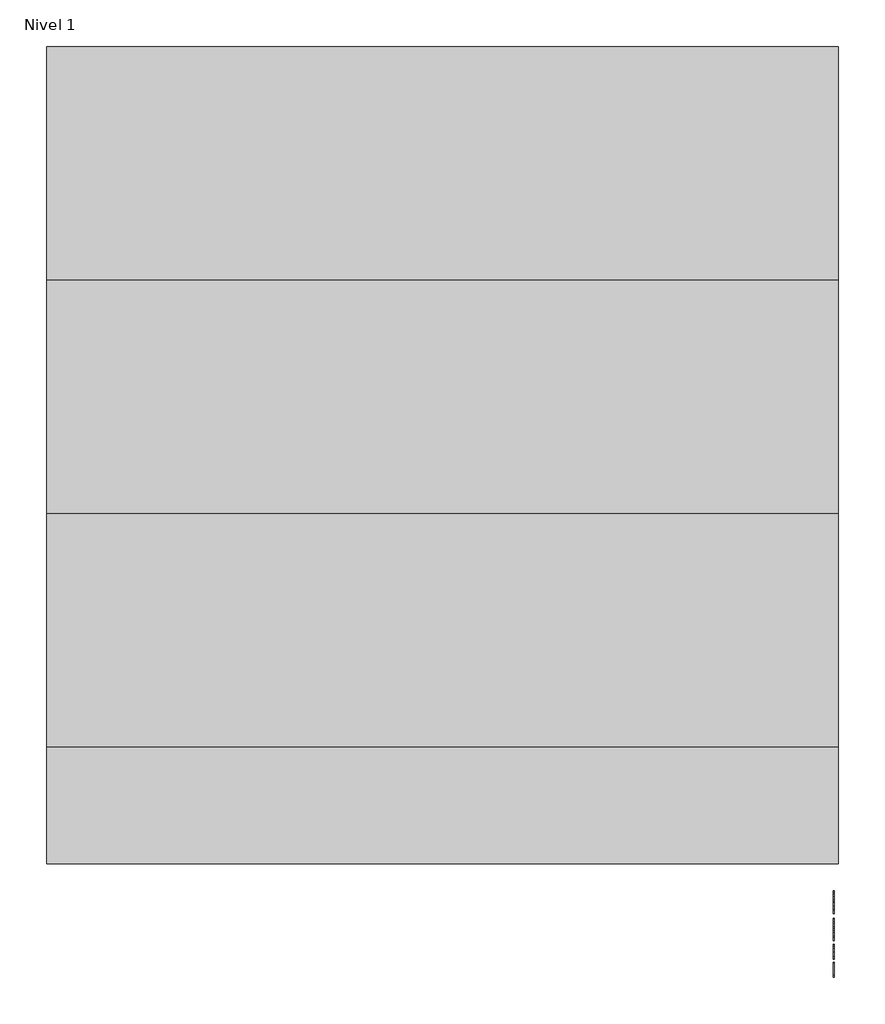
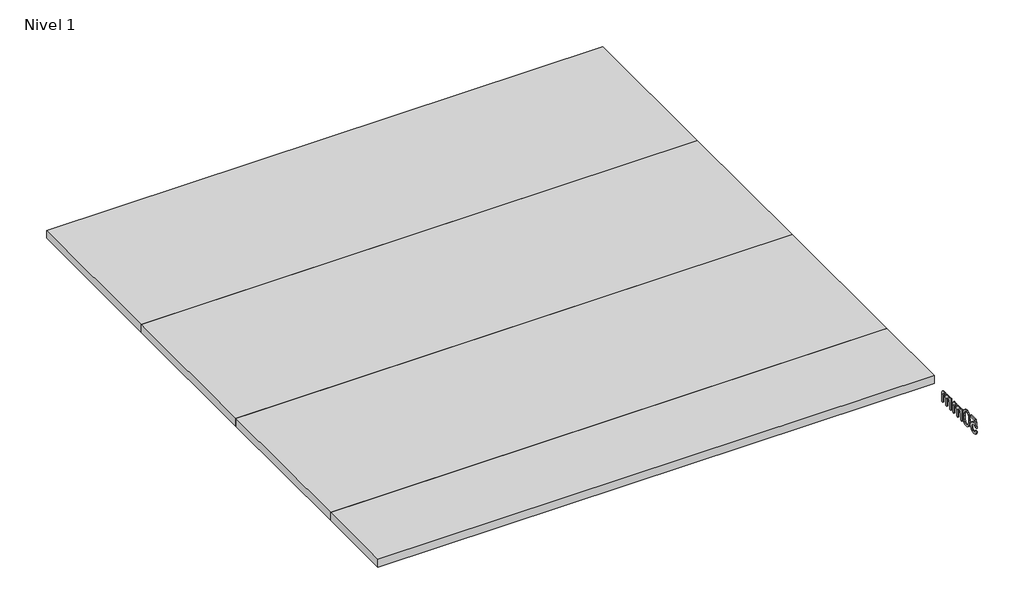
# One storey: 4 plates, 1 proxy.
"""IFC4 building model written with IfcOpenShell, lengths in millimetres."""

import ifcopenshell
import ifcopenshell.guid

model = None  # the IFC model being written
_history = None  # IfcOwnerHistory: only IFC2X3 demands one
_inside = {}  # id of a spatial element -> (the spatial element, [elements in it])
_under = {}  # id of a project, library or spatial element -> (it, [spatial elements below it])
_declared = {}  # id of a project -> (the project, [libraries it declares])
_typed = {}  # id of a type object -> (the type object, [elements of that type])
_made_of = {}  # id of a material, layer set ... -> (it, [elements and type objects made of it])


def new_model(schema):
    """Start an empty IFC model of exactly this schema.

    Asked for "IFC4X3", IfcOpenShell would pick the latest addendum, in which some entities
    have other attributes; the version numbers below select the first issue.
    IFC2X3 requires an IfcOwnerHistory on every rooted entity: one is made here for all.
    """
    global model, _history
    if schema == "IFC4X3":
        model = ifcopenshell.file(schema_version=(4, 3, 0, 0))
    else:
        model = ifcopenshell.file(schema=schema)
    _inside.clear()
    _under.clear()
    _declared.clear()
    _typed.clear()
    _made_of.clear()
    _history = None
    if model.schema == "IFC2X3":
        org = make("IfcOrganization", Name="unknown")
        user = make(
            "IfcPersonAndOrganization",
            ThePerson=make("IfcPerson", FamilyName="unknown"),
            TheOrganization=org,
        )
        app = make(
            "IfcApplication",
            ApplicationDeveloper=org,
            Version="unknown",
            ApplicationFullName="unknown",
            ApplicationIdentifier="unknown",
        )
        _history = make(
            "IfcOwnerHistory",
            OwningUser=user,
            OwningApplication=app,
            ChangeAction="ADDED",
            CreationDate=0,
        )
    return model


def make(cls, **values):
    """One entity of the class cls with the attributes given. An attribute that is None is left unset."""
    return model.create_entity(
        cls, **{name: value for name, value in values.items() if value is not None}
    )


def rooted(cls, **values):
    """An entity with a GlobalId (a new one), such as an element, a storey or a relation."""
    return make(cls, GlobalId=ifcopenshell.guid.new(), OwnerHistory=_history, **values)


def si_unit(unit_type, name, prefix=None):
    """IfcSIUnit, for example si_unit("LENGTHUNIT", "METRE", prefix="MILLI")."""
    return make("IfcSIUnit", UnitType=unit_type, Prefix=prefix, Name=name)


def assignment(units):
    """IfcUnitAssignment: the units of a project."""
    return None if units is None else make("IfcUnitAssignment", Units=units)


def point(xyz):
    """IfcCartesianPoint."""
    return None if xyz is None else make("IfcCartesianPoint", Coordinates=xyz)


def direction(xyz):
    """IfcDirection."""
    return None if xyz is None else make("IfcDirection", DirectionRatios=xyz)


def frame(location, z_axis=None, x_axis=None):
    """IfcAxis2Placement3D, a coordinate frame: its origin and axes. An axis left out is left unset."""
    return make(
        "IfcAxis2Placement3D",
        Location=point(location),
        Axis=direction(z_axis),
        RefDirection=direction(x_axis),
    )


def origin():
    """The frame at (0, 0, 0) with its axes left unset."""
    return frame((0.0, 0.0, 0.0))


def origin_with_axes():
    """The frame at (0, 0, 0) with the z axis (0, 0, 1) and the x axis (1, 0, 0) written out."""
    return frame((0.0, 0.0, 0.0), z_axis=(0.0, 0.0, 1.0), x_axis=(1.0, 0.0, 0.0))


def place(relative_to, where):
    """IfcLocalPlacement: puts the frame where relative to a parent placement (None: the world)."""
    return make(
        "IfcLocalPlacement", PlacementRelTo=relative_to, RelativePlacement=where
    )


def context(
    kind, dimensions, precision=None, world=None, true_north=None, identifier=None
):
    """IfcGeometricRepresentationContext, for example the 3D "Model" context."""
    return make(
        "IfcGeometricRepresentationContext",
        ContextIdentifier=identifier,
        ContextType=kind,
        CoordinateSpaceDimension=dimensions,
        Precision=precision,
        WorldCoordinateSystem=world,
        TrueNorth=true_north,
    )


def project(units=None, contexts=None):
    """IfcProject with its units and contexts."""
    return rooted(
        "IfcProject",
        Name="project",
        RepresentationContexts=contexts,
        UnitsInContext=assignment(units),
    )


def spatial(cls, under=None, at=None, **own):
    """A site, building, storey or space (cls), placed at a placement, below another one or the project."""
    s = rooted(cls, ObjectPlacement=at, **own)
    if under is not None:
        _under.setdefault(under.id(), (under, []))[1].append(s)
    return s


def polyline(points):
    """IfcPolyline through the points."""
    return make("IfcPolyline", Points=[point(p) for p in points])


def outline(outer, holes=None, kind="AREA"):
    """IfcArbitraryClosedProfileDef: a profile drawn as a closed curve; with holes, ...WithVoids."""
    if holes is None:
        return make("IfcArbitraryClosedProfileDef", ProfileType=kind, OuterCurve=outer)
    return make(
        "IfcArbitraryProfileDefWithVoids",
        ProfileType=kind,
        OuterCurve=outer,
        InnerCurves=holes,
    )


def extrude(swept, where, along, depth):
    """IfcExtrudedAreaSolid: the profile swept, set in the frame where, extruded along a direction by depth."""
    return make(
        "IfcExtrudedAreaSolid",
        SweptArea=swept,
        Position=where,
        ExtrudedDirection=direction(along),
        Depth=depth,
    )


def shape(context_of_items, identifier, shape_type, items):
    """IfcShapeRepresentation: the items that make up one representation, for example the "Body"."""
    return make(
        "IfcShapeRepresentation",
        ContextOfItems=context_of_items,
        RepresentationIdentifier=identifier,
        RepresentationType=shape_type,
        Items=items,
    )


def source(mapping_origin, context_of_items, identifier, shape_type, items):
    """IfcRepresentationMap: a shape defined once, which mapped items show again and again."""
    return make(
        "IfcRepresentationMap",
        MappingOrigin=mapping_origin,
        MappedRepresentation=shape(context_of_items, identifier, shape_type, items),
    )


def transform(
    local_origin,
    x_axis=None,
    y_axis=None,
    z_axis=None,
    scale=None,
    scale2=None,
    scale3=None,
    uniform=True,
):
    """IfcCartesianTransformationOperator3D, or its non-uniform kind. x_axis, y_axis, z_axis: its Axis1, 2, 3."""
    if uniform:
        return make(
            "IfcCartesianTransformationOperator3D",
            Axis1=direction(x_axis),
            Axis2=direction(y_axis),
            LocalOrigin=point(local_origin),
            Scale=scale,
            Axis3=direction(z_axis),
        )
    return make(
        "IfcCartesianTransformationOperator3DnonUniform",
        Axis1=direction(x_axis),
        Axis2=direction(y_axis),
        LocalOrigin=point(local_origin),
        Scale=scale,
        Axis3=direction(z_axis),
        Scale2=scale2,
        Scale3=scale3,
    )


def mapped(mapping_source, mapping_target):
    """IfcMappedItem: shows the shape of a source again, moved by a transform."""
    return make(
        "IfcMappedItem", MappingSource=mapping_source, MappingTarget=mapping_target
    )


def made_of(thing, what):
    """Note that an element or type object is made of a material, layer set ...; save() writes the relation."""
    if what is not None:
        _made_of.setdefault(what.id(), (what, []))[1].append(thing)
    return thing


def element(
    cls,
    number,
    at=None,
    inside=None,
    cuts=None,
    type_object=None,
    material=None,
    context=None,
    identifier="Body",
    shape_type=None,
    held_by="IfcProductDefinitionShape",
    body=None,
    shapes=None,
    **own,
):
    """One element of the class cls, such as IfcWall. Its Tag is "e" and its number.

    at: its placement. inside: the storey or other place that contains it. cuts: it is an
    opening in that element (IfcRelVoidsElement). A single representation is given by context,
    identifier, shape_type and body (its items); several are given by shapes. held_by: the class
    of the entity that holds the representations. save() writes the other relations.
    """
    e = rooted(cls, Tag="e%d" % number, ObjectPlacement=at, **own)
    if body is not None:
        shapes = [shape(context, identifier, shape_type, body)]
    if shapes is not None:
        e.Representation = make(held_by, Representations=shapes)
    if inside is not None:
        _inside.setdefault(inside.id(), (inside, []))[1].append(e)
    if cuts is not None:
        rooted(
            "IfcRelVoidsElement", RelatingBuildingElement=cuts, RelatedOpeningElement=e
        )
    if type_object is not None:
        _typed.setdefault(type_object.id(), (type_object, []))[1].append(e)
    return made_of(e, material)


def aggregate(whole, parts):
    """IfcRelAggregates: a whole, such as a stair, and the parts it consists of."""
    return rooted("IfcRelAggregates", RelatingObject=whole, RelatedObjects=parts)


def save(model, path):
    """Write the relations noted so far, then the file.

    IfcRelAggregates (storeys below a building ...), IfcRelContainedInSpatialStructure (elements
    in a storey), IfcRelDefinesByType, IfcRelAssociatesMaterial and IfcRelDeclares: one each for
    every whole, place, type object, material and project.
    """
    for whole, parts in _under.values():
        aggregate(whole, parts)
    for where, things in _inside.values():
        rooted(
            "IfcRelContainedInSpatialStructure",
            RelatedElements=things,
            RelatingStructure=where,
        )
    for kind, things in _typed.values():
        rooted("IfcRelDefinesByType", RelatedObjects=things, RelatingType=kind)
    for what, things in _made_of.values():
        rooted("IfcRelAssociatesMaterial", RelatedObjects=things, RelatingMaterial=what)
    for by, libraries in _declared.values():
        rooted("IfcRelDeclares", RelatingContext=by, RelatedDefinitions=libraries)
    model.write(path)


def panel_del_sistema_6634fb51(model_context):
    return source(origin(), model_context, "Body", "SweptSolid", [
        extrude(outline(polyline([(500.0000002, 0.0), (-500.0000002, 0.0), (-500.0000002, 50.0), (500.0000002, 50.0), (500.0000002, 0.0)])), origin_with_axes(), (0.0, 0.0, 1.0), 3390.8509027),
    ])


def panel_del_sistema_deb14117(model_context):
    return source(origin(), model_context, "Body", "SweptSolid", [
        extrude(outline(polyline([(249.9999998, 0.0), (-249.9999998, 0.0), (-249.9999998, 50.0), (249.9999998, 50.0), (249.9999998, 0.0)])), origin_with_axes(), (0.0, 0.0, 1.0), 3390.8509027),
    ])


model = new_model("IFC4")

# Units and contexts
model_context = context("Model", 3, world=origin())
ifc_project = project(units=[si_unit("LENGTHUNIT", "METRE", prefix="MILLI")], contexts=[model_context])

# Site, building, storey
site = spatial("IfcSite", under=ifc_project)
building = spatial("IfcBuilding", under=site)
storey = spatial("IfcBuildingStorey", under=building, Name="Nivel 1", Elevation=0.0)

# Proxy
placement = place(None, origin())
element("IfcBuildingElementProxy", 1, Name="100mm Arial", ObjectType="100mm Arial", at=placement, inside=storey, context=model_context, shape_type="SweptSolid", body=[
    extrude(outline(polyline([(14811.6332666, -790.4578656), (14824.1903054, -788.8882358), (14830.5178757, -801.8254193), (14843.6390002, -806.1541641), (14852.6398463, -804.6489136), (14859.3843496, -800.1331621), (14863.5965984, -793.1280758), (14865.0006814, -784.1548208), (14859.7399688, -769.2433373), (14853.1334213, -765.141453), (14843.8352039, -763.7741583), (14832.8110068, -765.9569248), (14825.7599352, -771.6223075), (14813.2028965, -770.0526776), (14824.1903054, -718.2548927), (14872.8488306, -718.2548927), (14872.8488306, -730.8119315), (14834.3438484, -730.8119315), (14828.9727713, -758.4766575), (14837.9429606, -753.032004), (14847.3423456, -751.2171195), (14859.0747156, -753.467331), (14868.8143914, -760.2179656), (14875.371888, -770.5063988), (14877.5577201, -783.3700059), (14875.5895515, -795.9270446), (14869.6850454, -806.6691989), (14858.3788055, -815.7007019), (14843.5899493, -818.7112029), (14831.2567054, -816.7767567), (14821.4311904, -810.9734182), (14814.6958842, -801.9756378), (14811.6332666, -790.4578656)])), frame((9557.0230098, 0.0, 0.0), z_axis=(1.0, 0.0, 0.0), x_axis=(0.0, 1.0, 0.0)), (0.0, 0.0, 1.0), 5.0),
    extrude(outline(polyline([(14888.5451291, -767.7227583), (14892.2362118, -738.8194963), (14903.1990952, -722.1544419), (14921.5073558, -716.6852629), (14936.1735847, -719.9226244), (14946.3026023, -729.2545644), (14952.1887142, -744.116997), (14954.4695826, -767.7227583), (14950.8152881, -796.5033931), (14939.8891929, -813.2052357), (14931.6578332, -817.3347111), (14921.5073558, -818.7112029), (14908.4598077, -816.3199699), (14898.5515193, -809.146271), (14891.0467266, -792.1562542), (14888.5451291, -767.7227583)]), holes=[polyline([(14901.1021678, -767.6982329), (14902.5736958, -787.4504303), (14906.9882798, -798.8823633), (14913.5611047, -804.3362139), (14921.5073558, -806.1541641), (14929.4536069, -804.3300825), (14936.0264319, -798.8578379), (14940.4410159, -787.4197735), (14941.9125438, -767.6982329), (14940.4900668, -748.3905595), (14936.2226356, -736.8697217), (14929.6620734, -731.1491567), (14921.360203, -729.2423016), (14913.4997911, -730.9222961), (14907.1844835, -735.9622794), (14902.6227467, -748.2004871), (14901.1021678, -767.6982329)])]), frame((9557.0230098, 0.0, 0.0), z_axis=(1.0, 0.0, 0.0), x_axis=(0.0, 1.0, 0.0)), (0.0, 0.0, 1.0), 5.0),
    extrude(outline(polyline([(14968.5962512, -817.141573), (14968.5962512, -743.3689703), (14981.15329, -743.3689703), (14981.15329, -755.5090761), (14989.7862541, -745.5639995), (15002.0735128, -741.7993404), (15014.655077, -745.6375759), (15021.5712585, -756.3919929), (15031.3691823, -745.4475035), (15043.7422801, -741.7993404), (15053.181519, -743.3168536), (15060.1620798, -747.8693933), (15064.4754962, -755.5795868), (15065.9133017, -766.5700614), (15065.9133017, -817.141573), (15053.3562629, -817.141573), (15053.3562629, -771.965664), (15052.1913033, -761.4810272), (15047.972923, -756.3184165), (15040.7992241, -754.3563792), (15028.4506518, -759.3840998), (15024.7626348, -765.9262679), (15023.5332958, -775.4973312), (15023.5332958, -817.141573), (15010.9762571, -817.141573), (15010.9762571, -770.5677124), (15008.0699893, -758.4030811), (14998.5418456, -754.3563792), (14989.2466939, -757.0541805), (14983.0662764, -764.9513806), (14981.15329, -779.9364406), (14981.15329, -817.141573), (14968.5962512, -817.141573)])), frame((9557.0230098, 0.0, 0.0), z_axis=(1.0, 0.0, 0.0), x_axis=(0.0, 1.0, 0.0)), (0.0, 0.0, 1.0), 5.0),
    extrude(outline(polyline([(15084.7488598, -817.141573), (15084.7488598, -743.3689703), (15097.3058986, -743.3689703), (15097.3058986, -755.5090761), (15105.9388628, -745.5639995), (15118.2261214, -741.7993404), (15130.8076856, -745.6375759), (15137.7238671, -756.3919929), (15147.5217909, -745.4475035), (15159.8948887, -741.7993404), (15169.3341276, -743.3168536), (15176.3146884, -747.8693933), (15180.6281048, -755.5795868), (15182.0659103, -766.5700614), (15182.0659103, -817.141573), (15169.5088715, -817.141573), (15169.5088715, -771.965664), (15168.3439119, -761.4810272), (15164.1255317, -756.3184165), (15156.9518327, -754.3563792), (15144.6032604, -759.3840998), (15140.9152434, -765.9262679), (15139.6859044, -775.4973312), (15139.6859044, -817.141573), (15127.1288657, -817.141573), (15127.1288657, -770.5677124), (15124.2225979, -758.4030811), (15114.6944542, -754.3563792), (15105.3993025, -757.0541805), (15099.218885, -764.9513806), (15097.3058986, -779.9364406), (15097.3058986, -817.141573), (15084.7488598, -817.141573)])), frame((9557.0230098, 0.0, 0.0), z_axis=(1.0, 0.0, 0.0), x_axis=(0.0, 1.0, 0.0)), (0.0, 0.0, 1.0), 5.0),
])

# Plates
panel_del_sistema_shape = panel_del_sistema_6634fb51(model_context)
element("IfcPlate", 2, ObjectType="Panel del sistema : HIANSA PANEL - PANELES DE CUBIERTA SIN TAPAJUNTA - EASY CUB 5GR ULTRA - Esp. 50mm", at=placement, inside=storey, context=model_context, shape_type="MappedRepresentation", body=[
    mapped(panel_del_sistema_shape, transform((9579.0356399, 18298.3330794, -779.5962409), x_axis=(0.0, -1.0, 0.0), y_axis=(0.0, 0.0, 1.0), z_axis=(-1.0, 0.0, 0.0))),
])
element("IfcPlate", 3, ObjectType="Panel del sistema : HIANSA PANEL - PANELES DE CUBIERTA SIN TAPAJUNTA - EASY CUB 5GR ULTRA - Esp. 50mm", at=placement, inside=storey, context=model_context, shape_type="MappedRepresentation", body=[
    mapped(panel_del_sistema_shape, transform((9579.0356399, 17298.3330793, -779.5962409), x_axis=(0.0, -1.0, 0.0), y_axis=(0.0, 0.0, 1.0), z_axis=(-1.0, 0.0, 0.0))),
])
element("IfcPlate", 4, ObjectType="Panel del sistema : HIANSA PANEL - PANELES DE CUBIERTA SIN TAPAJUNTA - EASY CUB 5GR ULTRA - Esp. 50mm", at=placement, inside=storey, context=model_context, shape_type="MappedRepresentation", body=[
    mapped(panel_del_sistema_shape, transform((9579.0356399, 16298.3330793, -779.5962409), x_axis=(0.0, -1.0, 0.0), y_axis=(0.0, 0.0, 1.0), z_axis=(-1.0, 0.0, 0.0))),
])
panel_del_sistema_2_shape = panel_del_sistema_deb14117(model_context)
element("IfcPlate", 5, ObjectType="Panel del sistema : HIANSA PANEL - PANELES DE CUBIERTA SIN TAPAJUNTA - EASY CUB 5GR ULTRA - Esp. 50mm", at=placement, inside=storey, context=model_context, shape_type="MappedRepresentation", body=[
    mapped(panel_del_sistema_2_shape, transform((9579.0356399, 15548.3330794, -779.5962409), x_axis=(0.0, -1.0, 0.0), y_axis=(0.0, 0.0, 1.0), z_axis=(-1.0, 0.0, 0.0))),
])

save(model, "model.ifc")
